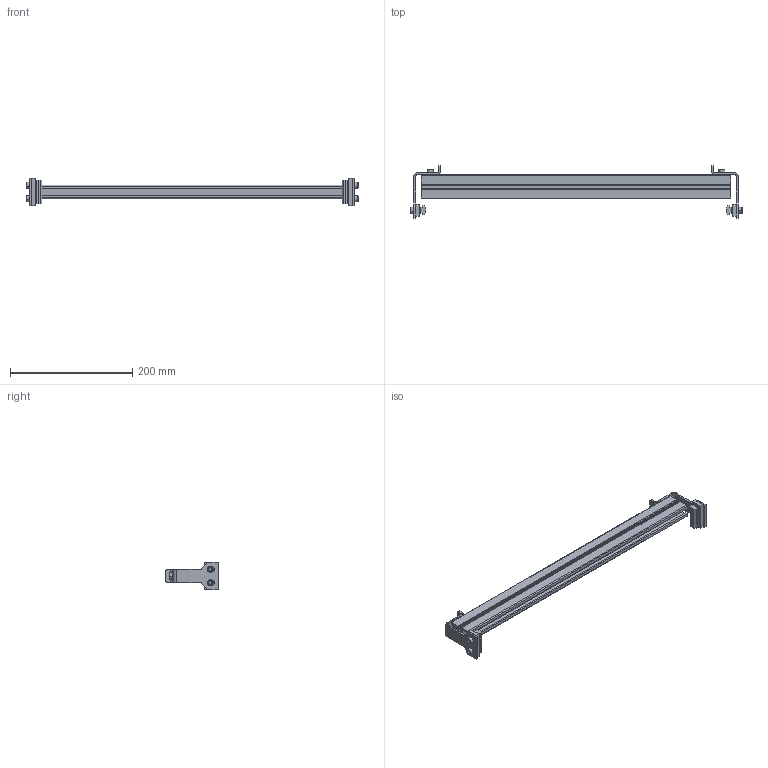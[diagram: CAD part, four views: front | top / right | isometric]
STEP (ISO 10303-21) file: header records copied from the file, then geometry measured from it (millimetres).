
FILE_DESCRIPTION (( 'STEP AP203' ), '1' );
FILE_NAME ('207133-20.STEP', '2019-06-17T13:05:05', ( '' ), ( '' ), 'SwSTEP 2.0', 'SolidWorks 2017', '' );
FILE_SCHEMA (( 'CONFIG_CONTROL_DESIGN' ));
Length unit declared in the file: inch
Products named in the file (8): 207135-WW_207135-20; 202444; 201937; 9206XXM_920620M; 207133-20; 200626M; 9206XXM_920614M; 639971M_CAE
Assembly tree (15 placements, depth 2):
  207133-20
    201937  x2
    207135-WW_207135-20
    202444  x2
    200626M  x2
    639971M_CAE  x2
    9206XXM_920614M  x2
    9206XXM_920620M  x4
Bounding box: 543.77 x 85.8 x 44.45 mm (x, y, z)
Volume: 250345.5 mm3; surface area: 154169.4 mm2
Topology: 15 solids, 15 shells, 428 faces, 1030 edges, 644 vertices
Faces by surface type: plane 258, cylinder 104, cone 66
Entity records: 8258 total; most frequent: CARTESIAN_POINT 1362, DIRECTION 1216, ORIENTED_EDGE 1200, EDGE_CURVE 600, VECTOR 460, LINE 460, VERTEX_POINT 384, AXIS2_PLACEMENT_3D 378
